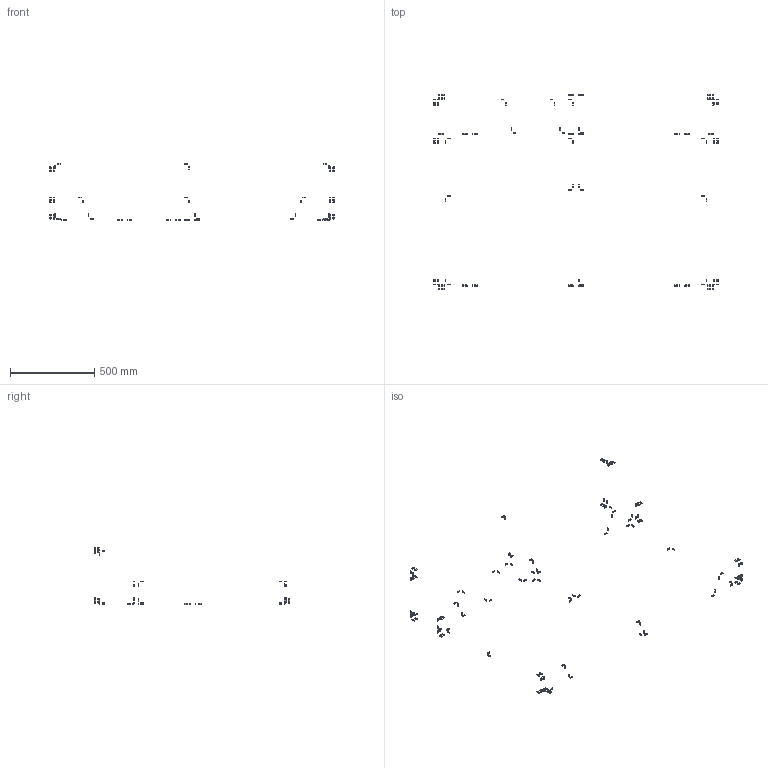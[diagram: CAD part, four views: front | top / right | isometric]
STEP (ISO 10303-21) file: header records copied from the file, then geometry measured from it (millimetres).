
FILE_DESCRIPTION(/* description */ (''),/* implementation_level */ '2;1');
FILE_NAME(/* name */ 'FR0441~1',/* time_stamp */ '2014-02-14T19:32:23+01:00',/* author */ (''),/* organization */ (''),/* preprocessor_version */ 'ST-DEVELOPER v14',/* originating_system */ '',/* authorisation */ '');
FILE_SCHEMA (('AUTOMOTIVE_DESIGN'));
Products named in the file (2): Document; nut tslot, post, M5
Assembly tree (50 placements, depth 2):
  Document
    nut tslot, post, M5  x50
Bounding box: 1688.3 x 1158.3 x 339.35 mm (x, y, z)
Volume: 42213.2 mm3; surface area: 56217 mm2
Topology: 134 solids, 134 shells, 1742 faces, 4824 edges, 3216 vertices
Faces by surface type: plane 1474, bspline 268
Entity records: 81361 total; most frequent: CARTESIAN_POINT 38813, B_SPLINE_CURVE_WITH_KNOTS 8500, ORIENTED_EDGE 6120, PCURVE 6120, DEFINITIONAL_REPRESENTATION 6120, SURFACE_CURVE 3060, EDGE_CURVE 3060, VERTEX_POINT 2040
